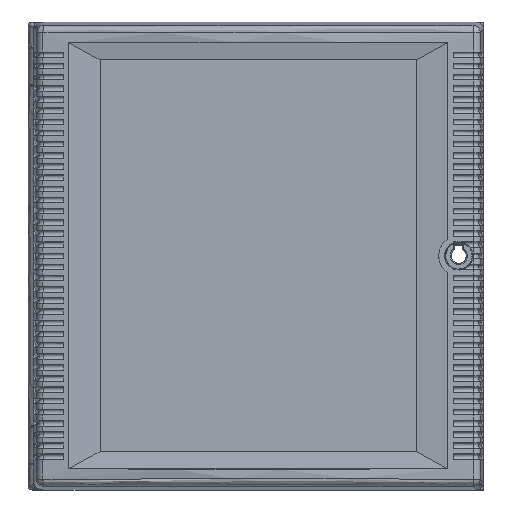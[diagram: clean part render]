
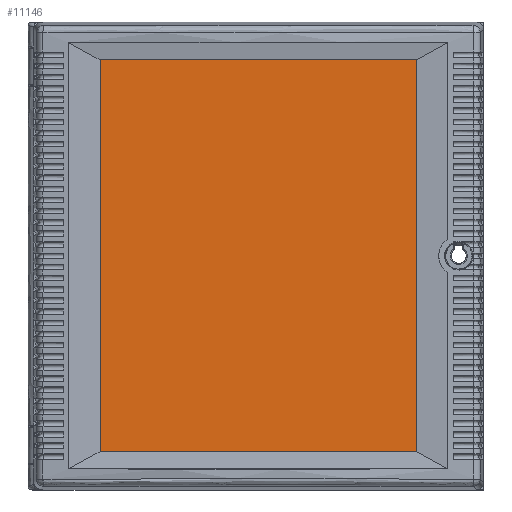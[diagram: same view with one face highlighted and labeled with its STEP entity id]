
A CAD part, top view. The second image highlights one B-rep face of the part: STEP entity #11146.
In plain terms, the highlighted free-form (B-spline) face has degree [1, 1] with [2, 2] control points.
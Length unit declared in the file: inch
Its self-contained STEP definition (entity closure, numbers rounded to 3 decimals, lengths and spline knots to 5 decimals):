
#10994=CARTESIAN_POINT('V392',(12.77336,7.09029,
   -4.32287));
#10995=VERTEX_POINT('V392',#10994);
#11010=CARTESIAN_POINT('V389',(12.77336,1.61638,
   -4.32287));
#11011=VERTEX_POINT('V389',#11010);
#11017=CARTESIAN_POINT('E689',(12.77336,7.09029,
   -4.32287));
#11018=CARTESIAN_POINT('E689',(12.77336,1.61638,
   -4.32287));
#11019=B_SPLINE_CURVE_WITH_KNOTS('E689',1,(#11017,#11018),
   .POLYLINE_FORM.,.F.,.U.,(2,2),(0.02639,
   0.97361),.UNSPECIFIED.);
#11020=EDGE_CURVE('E689',#10995,#11011,#11019,.T.);
#11086=CARTESIAN_POINT('V391',(17.19855,7.09029,
   -4.32287));
#11087=VERTEX_POINT('V391',#11086);
#11095=CARTESIAN_POINT('E688',(17.19855,7.09029,
   -4.32287));
#11096=CARTESIAN_POINT('E688',(12.77336,7.09029,
   -4.32287));
#11097=B_SPLINE_CURVE_WITH_KNOTS('E688',1,(#11095,#11096),
   .POLYLINE_FORM.,.F.,.U.,(2,2),(0.027,
   0.973),.UNSPECIFIED.);
#11098=EDGE_CURVE('E688',#11087,#10995,#11097,.T.);
#11110=CARTESIAN_POINT('V390',(17.19855,1.61638,
   -4.32287));
#11111=VERTEX_POINT('V390',#11110);
#11123=CARTESIAN_POINT('E687',(17.19855,1.61638,
   -4.32287));
#11124=CARTESIAN_POINT('E687',(17.19855,7.09029,
   -4.32287));
#11125=B_SPLINE_CURVE_WITH_KNOTS('E687',1,(#11123,#11124),
   .POLYLINE_FORM.,.F.,.U.,(2,2),(0.02639,
   0.97361),.UNSPECIFIED.);
#11126=EDGE_CURVE('E687',#11111,#11087,#11125,.T.);
#11131=CARTESIAN_POINT('F295',(12.64707,1.46387,
   -4.32287));
#11132=CARTESIAN_POINT('F295',(17.32484,1.46387,
   -4.32287));
#11133=CARTESIAN_POINT('F295',(12.64707,7.2428,
   -4.32287));
#11134=CARTESIAN_POINT('F295',(17.32484,7.2428,
   -4.32287));
#11135=QUASI_UNIFORM_SURFACE('F295',1,1,((#11131,#11133),(#11132,
   #11134)),.PLANE_SURF.,.F.,.F.,.U.);
#11136=CARTESIAN_POINT('E686',(12.77336,1.61638,
   -4.32287));
#11137=CARTESIAN_POINT('E686',(17.19855,1.61638,
   -4.32287));
#11138=B_SPLINE_CURVE_WITH_KNOTS('E686',1,(#11136,#11137),
   .POLYLINE_FORM.,.F.,.U.,(2,2),(0.027,
   0.973),.UNSPECIFIED.);
#11139=EDGE_CURVE('E686',#11011,#11111,#11138,.T.);
#11140=ORIENTED_EDGE('E686',*,*,#11139,.T.);
#11141=ORIENTED_EDGE('F297',*,*,#11126,.T.);
#11142=ORIENTED_EDGE('F296',*,*,#11098,.T.);
#11143=ORIENTED_EDGE('F299',*,*,#11020,.T.);
#11144=EDGE_LOOP('F295',(#11140,#11141,#11142,#11143));
#11145=FACE_OUTER_BOUND('F295',#11144,.T.);
#11146=ADVANCED_FACE('F295',(#11145),#11135,.T.);
